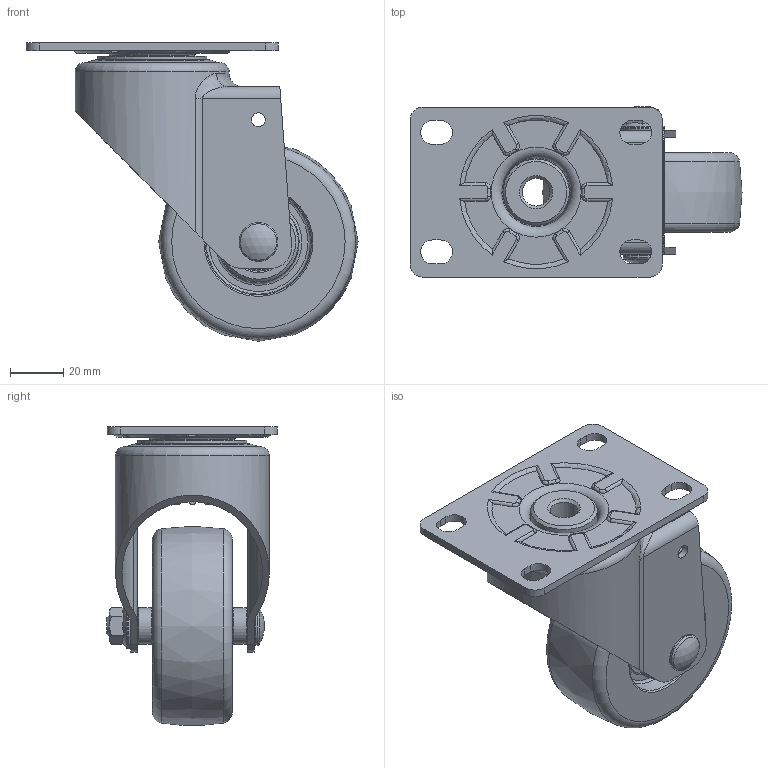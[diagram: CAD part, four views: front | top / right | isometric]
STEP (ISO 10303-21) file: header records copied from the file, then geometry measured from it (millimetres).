
FILE_DESCRIPTION(/* description */ (''),/* implementation_level */ '2;1');
FILE_NAME(/* name */ 'C:\Users\황치선\Desktop\frd\PL-75-ASF-FRD.stp',/* time_stamp */ '2015-07-09T14:20:48+09:00',/* author */ ('황치선'),/* organization */ (''),/* preprocessor_version */ 'ST-DEVELOPER v15.6',/* originating_system */ 'Autodesk Inventor 2015',/* authorisation */ '');
FILE_SCHEMA (('AUTOMOTIVE_DESIGN { 1 0 10303 214 3 1 1 }'));
Length unit declared in the file: centimetre
Products named in the file (1): PL-75-ASF-FRD
Bounding box: 125 x 64.25 x 112.4 mm (x, y, z)
Volume: 191677.1 mm3; surface area: 73894.2 mm2
Topology: 1 solids, 6 shells, 597 faces, 1479 edges, 897 vertices
Faces by surface type: cylinder 216, plane 216, torus 75, cone 48, bspline 41, sphere 1
Full cylindrical faces by diameter (mm): 5.2 x2, 8 x3, 8.2 x3, 10.441 x1, 12.5 x1, 13.8 x3, 14.6 x1, 15.5 x1, 16.9 x1, 17 x2, 22 x2, 24.667 x2, 25 x1, 32.333 x2, 34 x1, 36 x1, 41 x1, 53 x1, 58 x1
Entity records: 21947 total; most frequent: CARTESIAN_POINT 7842, DIRECTION 2898, ORIENTED_EDGE 2644, EDGE_CURVE 1318, AXIS2_PLACEMENT_3D 1176, VERTEX_POINT 862, EDGE_LOOP 767, CIRCLE 609
